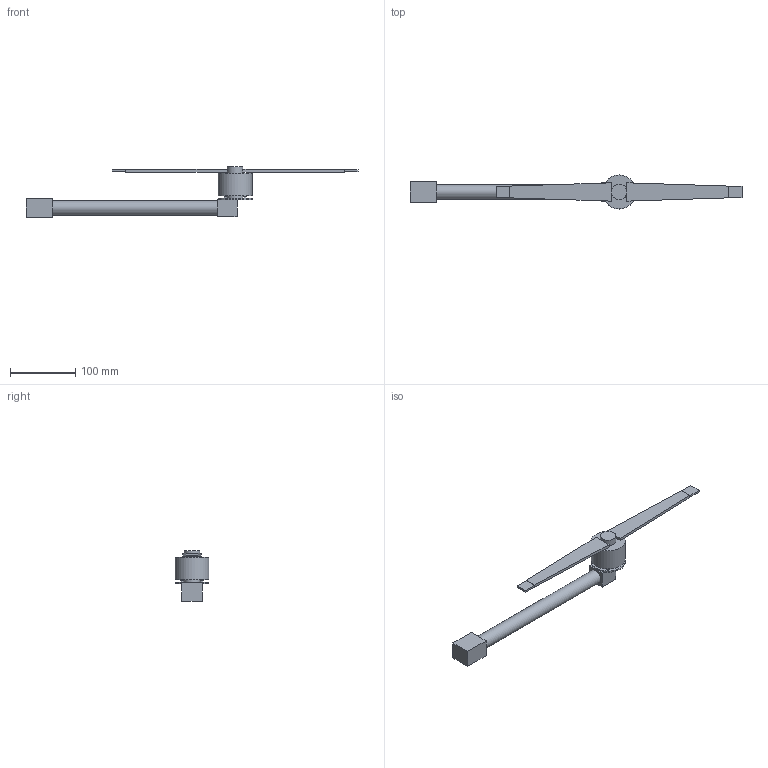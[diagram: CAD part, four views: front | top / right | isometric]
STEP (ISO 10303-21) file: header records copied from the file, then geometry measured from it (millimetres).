
FILE_DESCRIPTION(('FreeCAD Model'),'2;1');
FILE_NAME('Open CASCADE Shape Model','2026-10-22T00:32:17',('Author'),( ''),'Open CASCADE STEP processor 7.8','FreeCAD','Unknown');
FILE_SCHEMA(('AUTOMOTIVE_DESIGN { 1 0 10303 214 1 1 1 1 }'));
Length unit declared in the file: millimetre
Products named in the file (19): Arm 1.1.0; Root clamp; Tube; Motor mount; Motor 1.0.0; Flange; Neck; Stator; Small propeller 1.1.0; Hub; Blade; Blade tip; Blade 2; Blade tip 2; Fasteners 1.0.0; Screw head M3; Screw head M3 2; Screw head M3 3; Screw head M3 4
Assembly tree (18 placements, depth 3):
  Arm 1.1.0
    Root clamp
    Tube
    Motor mount
    Motor 1.0.0
      Flange
      Neck
      Stator
    Small propeller 1.1.0
      Hub
      Blade
      Blade tip
      Blade 2
      Blade tip 2
    Fasteners 1.0.0
      Screw head M3
      Screw head M3 2
      Screw head M3 3
      Screw head M3 4
Bounding box: 508 x 52 x 77 mm (x, y, z)
Volume: 269090.8 mm3; surface area: 66283.3 mm2
Topology: 15 solids, 15 shells, 63 faces, 99 edges, 66 vertices
Faces by surface type: plane 54, cylinder 9
Full cylindrical faces by diameter (mm): 4 x4, 22 x1, 24 x2, 52 x2
Entity records: 1717 total; most frequent: DIRECTION 281, CARTESIAN_POINT 247, ORIENTED_EDGE 198, AXIS2_PLACEMENT_3D 100, EDGE_CURVE 99, LINE 81, VECTOR 81, VERTEX_POINT 66
